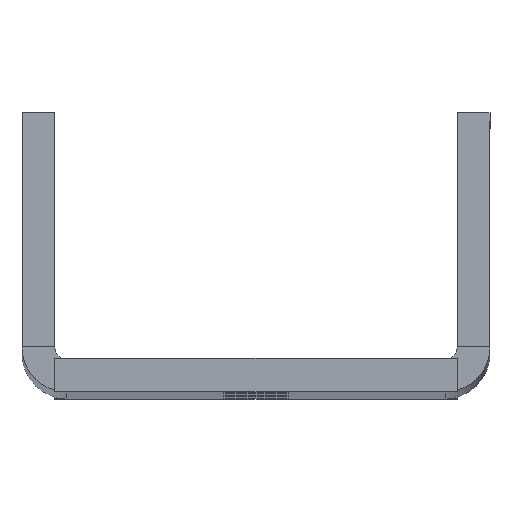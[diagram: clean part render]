
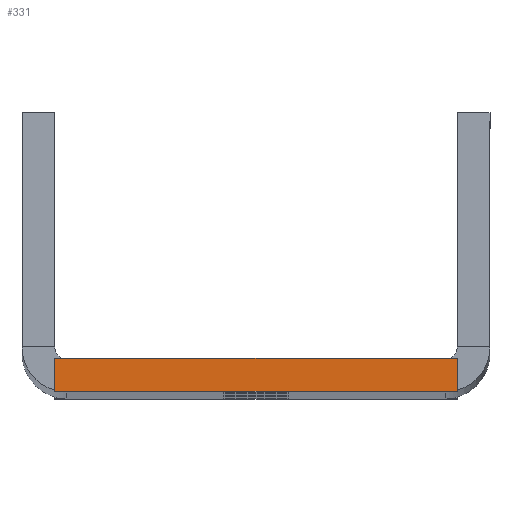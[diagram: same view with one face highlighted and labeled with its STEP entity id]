
A CAD part, top view. The second image highlights one B-rep face of the part: STEP entity #331.
In plain terms, the highlighted planar face has unit normal (0, 0, 1).
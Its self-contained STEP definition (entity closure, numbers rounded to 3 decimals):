
#90 = LINE ( 'NONE', #1552, #953 ) ;
#174 = EDGE_CURVE ( 'NONE', #832, #1522, #90, .T. ) ;
#213 = DIRECTION ( 'NONE',  ( 0., 1., 0. ) ) ;
#240 = EDGE_LOOP ( 'NONE', ( #1799, #1655, #1138, #1710 ) ) ;
#331 = ADVANCED_FACE ( 'NONE', ( #1075 ), #603, .T. ) ;
#408 = EDGE_CURVE ( 'NONE', #1868, #1524, #899, .T. ) ;
#564 = EDGE_CURVE ( 'NONE', #1524, #1522, #1787, .T. ) ;
#603 = PLANE ( 'NONE',  #1735 ) ;
#821 = DIRECTION ( 'NONE',  ( 1., 0., 0. ) ) ;
#822 = DIRECTION ( 'NONE',  ( 0., 1., 0. ) ) ;
#832 = VERTEX_POINT ( 'NONE', #1158 ) ;
#899 = LINE ( 'NONE', #1328, #1129 ) ;
#935 = CARTESIAN_POINT ( 'NONE',  ( 0., -2., 0. ) ) ;
#953 = VECTOR ( 'NONE', #821, 1000. ) ;
#960 = VECTOR ( 'NONE', #822, 1000. ) ;
#1075 = FACE_OUTER_BOUND ( 'NONE', #240, .T. ) ;
#1129 = VECTOR ( 'NONE', #1475, 1000. ) ;
#1138 = ORIENTED_EDGE ( 'NONE', *, *, #408, .T. ) ;
#1158 = CARTESIAN_POINT ( 'NONE',  ( 0., 0., 0. ) ) ;
#1328 = CARTESIAN_POINT ( 'NONE',  ( 0., -2., 0. ) ) ;
#1403 = CARTESIAN_POINT ( 'NONE',  ( 24.5, -2., 0. ) ) ;
#1464 = DIRECTION ( 'NONE',  ( 0., 0., 1. ) ) ;
#1475 = DIRECTION ( 'NONE',  ( 1., 0., 0. ) ) ;
#1510 = CARTESIAN_POINT ( 'NONE',  ( 0., -2., 0. ) ) ;
#1522 = VERTEX_POINT ( 'NONE', #1754 ) ;
#1524 = VERTEX_POINT ( 'NONE', #1627 ) ;
#1552 = CARTESIAN_POINT ( 'NONE',  ( 0., 0., 0. ) ) ;
#1565 = LINE ( 'NONE', #1510, #1589 ) ;
#1589 = VECTOR ( 'NONE', #213, 1000. ) ;
#1618 = CARTESIAN_POINT ( 'NONE',  ( 0., -2., 0. ) ) ;
#1623 = DIRECTION ( 'NONE',  ( 1., 0., 0. ) ) ;
#1627 = CARTESIAN_POINT ( 'NONE',  ( 24.5, -2., 0. ) ) ;
#1655 = ORIENTED_EDGE ( 'NONE', *, *, #1841, .F. ) ;
#1710 = ORIENTED_EDGE ( 'NONE', *, *, #564, .T. ) ;
#1735 = AXIS2_PLACEMENT_3D ( 'NONE', #1618, #1464, #1623 ) ;
#1754 = CARTESIAN_POINT ( 'NONE',  ( 24.5, 0., 0. ) ) ;
#1787 = LINE ( 'NONE', #1403, #960 ) ;
#1799 = ORIENTED_EDGE ( 'NONE', *, *, #174, .F. ) ;
#1841 = EDGE_CURVE ( 'NONE', #1868, #832, #1565, .T. ) ;
#1868 = VERTEX_POINT ( 'NONE', #935 ) ;
